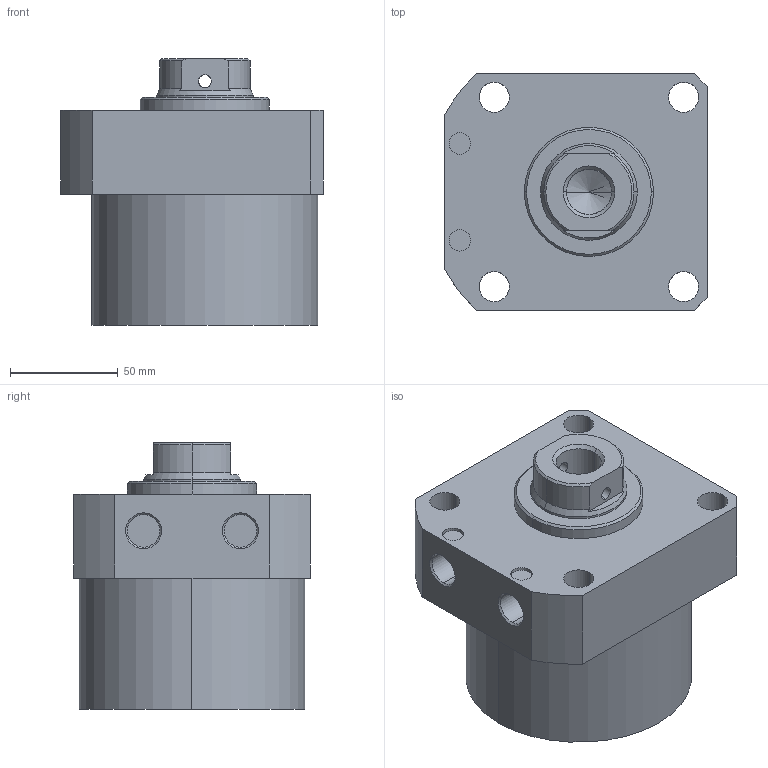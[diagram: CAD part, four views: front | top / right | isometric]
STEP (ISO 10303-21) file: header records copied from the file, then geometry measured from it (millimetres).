
FILE_DESCRIPTION (( 'STEP AP203' ), '1' );
FILE_NAME ('CLLR-105CB-040.STEP', '2019-12-19T01:43:00', ( '' ), ( '' ), 'SwSTEP 2.0', 'SolidWorks 2015', '' );
FILE_SCHEMA (( 'CONFIG_CONTROL_DESIGN' ));
Length unit declared in the file: millimetre
Products named in the file (1): CLLR-105CB-040
Bounding box: 122 x 110 x 124 mm (x, y, z)
Volume: 1030277.3 mm3; surface area: 78076.8 mm2
Topology: 1 solids, 1 shells, 67 faces, 160 edges, 101 vertices
Faces by surface type: cylinder 33, plane 19, cone 15
Entity records: 2165 total; most frequent: CARTESIAN_POINT 471, DIRECTION 358, ORIENTED_EDGE 316, EDGE_CURVE 158, AXIS2_PLACEMENT_3D 144, VERTEX_POINT 101, EDGE_LOOP 87, CIRCLE 76
